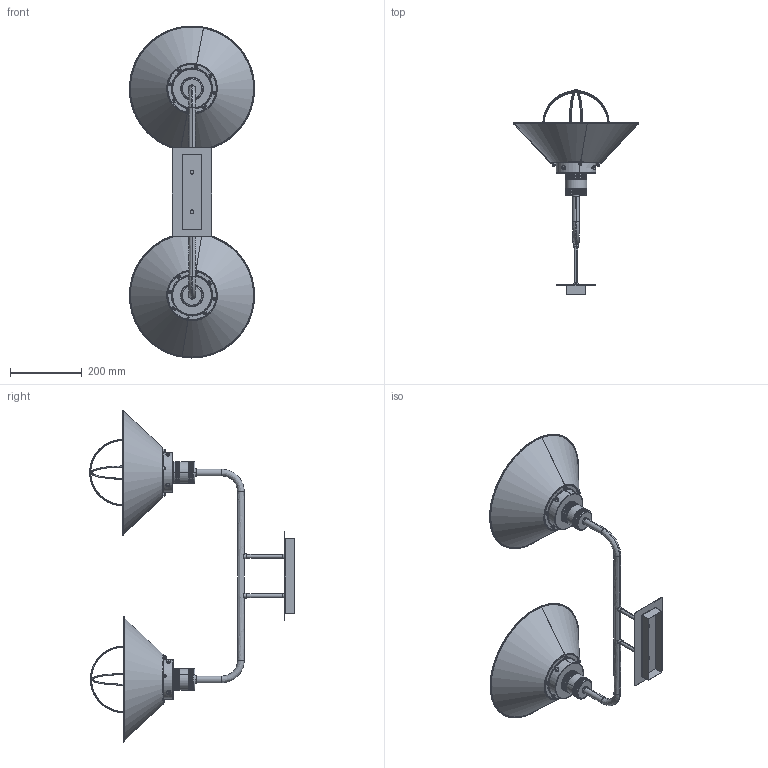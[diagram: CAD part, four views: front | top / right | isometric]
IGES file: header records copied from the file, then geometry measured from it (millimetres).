
Start section: SolidWorks IGES file using analytic representation for surfaces
Global section: file name: E:\3D lampy\Garret\Garret kinkiet II\Garret plafon II.IGS; native system: SolidWorks 2016; preprocessor: SolidWorks 2016; author: Asia; date: 160927.082933; units: millimetre
Bounding box: 349.06 x 570.17 x 925.5 mm (x, y, z)
Surface area: 956058.1 mm2 (no closed solid volume)
Topology: 0 solids, 0 shells, 1936 faces, 23488 edges, 23440 vertices
Faces by surface type: bspline 1350, revolution 586
